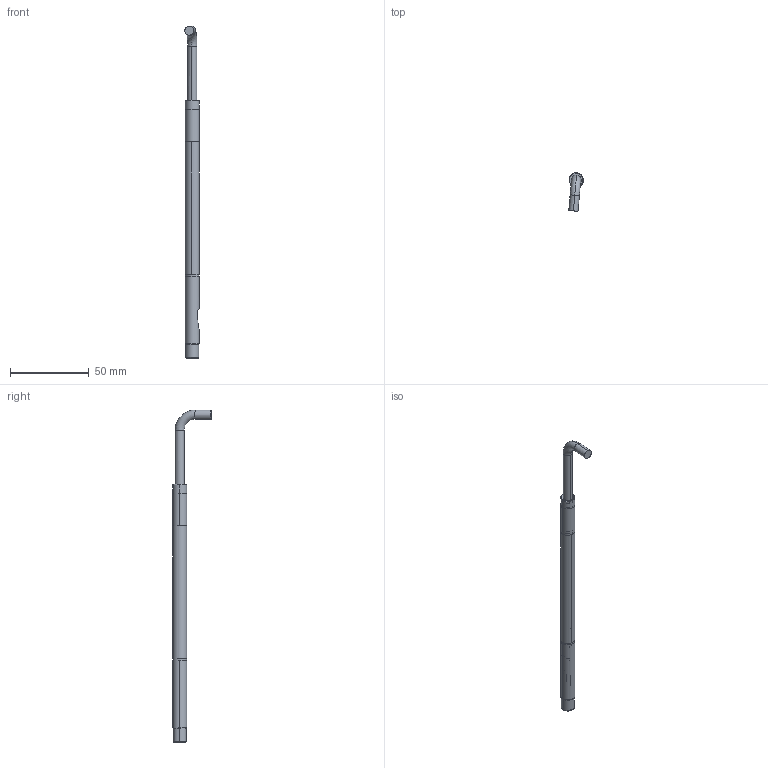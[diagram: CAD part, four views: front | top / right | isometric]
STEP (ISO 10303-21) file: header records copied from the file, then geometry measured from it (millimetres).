
FILE_DESCRIPTION (( 'STEP AP203' ), '1' );
FILE_NAME ('俶 609.05.000_捘.STEP', '2020-03-24T07:01:23', ( 'user' ), ( 'Ref' ), 'SwSTEP 2.0', 'SolidWorks 2015', '' );
FILE_SCHEMA (( 'CONFIG_CONTROL_DESIGN' ));
Length unit declared in the file: millimetre
Products named in the file (7): ÐÔ 609.05.00õ_îñíîâàíèå äàò÷èêà; 俶 609.05.00騶盷謥羻僾鴀; 俶 609.05.00騶扻豵鵨; 俶 609.05.000_捘; 俶 609.05.00騶扻錝僝資; RF603.00.81_忺摎錪; ﾐﾔ 609.05.00ﾊ鮻
Assembly tree (6 placements, depth 2):
  俶 609.05.000_捘
    俶 609.05.00騶扻豵鵨
    ﾐﾔ 609.05.00ﾊ鮻
    ÐÔ 609.05.00õ_îñíîâàíèå äàò÷èêà
    RF603.00.81_忺摎錪
    俶 609.05.00騶盷謥羻僾鴀
    俶 609.05.00騶扻錝僝資
Bounding box: 9.25 x 24.69 x 211.15 mm (x, y, z)
Volume: 6373.6 mm3; surface area: 12223.5 mm2
Topology: 6 solids, 6 shells, 227 faces, 575 edges, 361 vertices
Faces by surface type: cylinder 101, plane 69, cone 36, torus 20, bspline 1
Entity records: 8176 total; most frequent: CARTESIAN_POINT 1933, DIRECTION 1199, ORIENTED_EDGE 1150, EDGE_CURVE 575, AXIS2_PLACEMENT_3D 477, VERTEX_POINT 361, EDGE_LOOP 252, VECTOR 245
